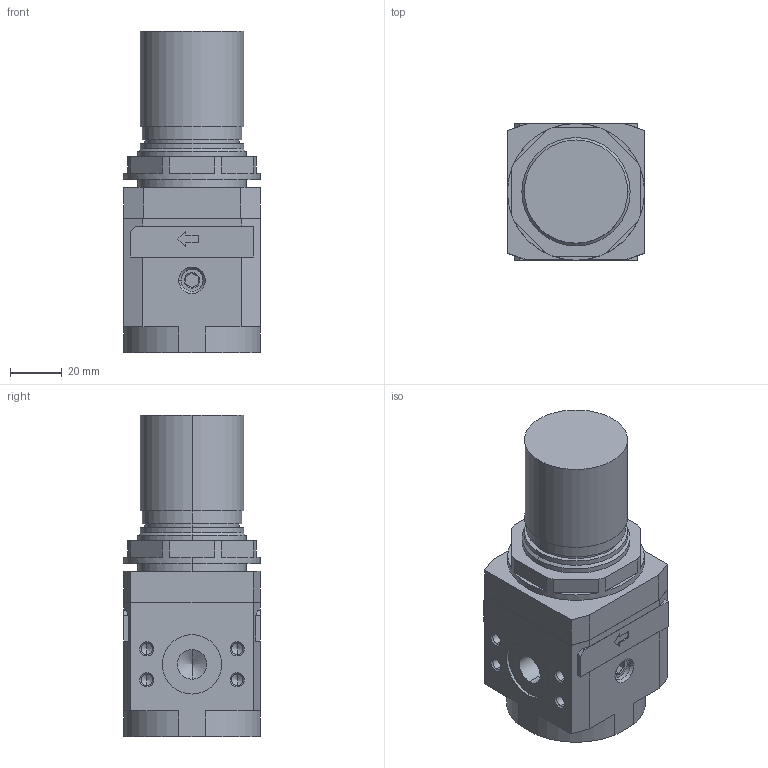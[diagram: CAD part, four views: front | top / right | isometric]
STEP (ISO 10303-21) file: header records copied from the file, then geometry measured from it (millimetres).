
FILE_DESCRIPTION((''),'2;1');
FILE_NAME('I:\DOC-EDP\Lib-3d\FRL\17202A_.stp','2003-06-16T14:54:13',('maffial1'),(''),'Autodesk Inventor 7','Autodesk Inventor 7','');
FILE_SCHEMA(('AUTOMOTIVE_DESIGN { 1 0 10303 214 1 1 1 1 }'));
Length unit declared in the file: millimetre
Products named in the file (4): 17202A_; 17202A_(1); RS_1702_12; RK_1701_020
Assembly tree (3 placements, depth 2):
  17202A_
    17202A_(1)
    RS_1702_12
    RK_1701_020
Bounding box: 53 x 53 x 124.5 mm (x, y, z)
Volume: 248119.1 mm3; surface area: 39799.1 mm2
Topology: 3 solids, 5 shells, 219 faces, 533 edges, 325 vertices
Faces by surface type: bspline 96, plane 79, cylinder 28, cone 12, torus 4
Entity records: 7240 total; most frequent: CARTESIAN_POINT 2380, ORIENTED_EDGE 1018, DIRECTION 924, EDGE_CURVE 509, VECTOR 330, LINE 330, VERTEX_POINT 325, AXIS2_PLACEMENT_3D 297
